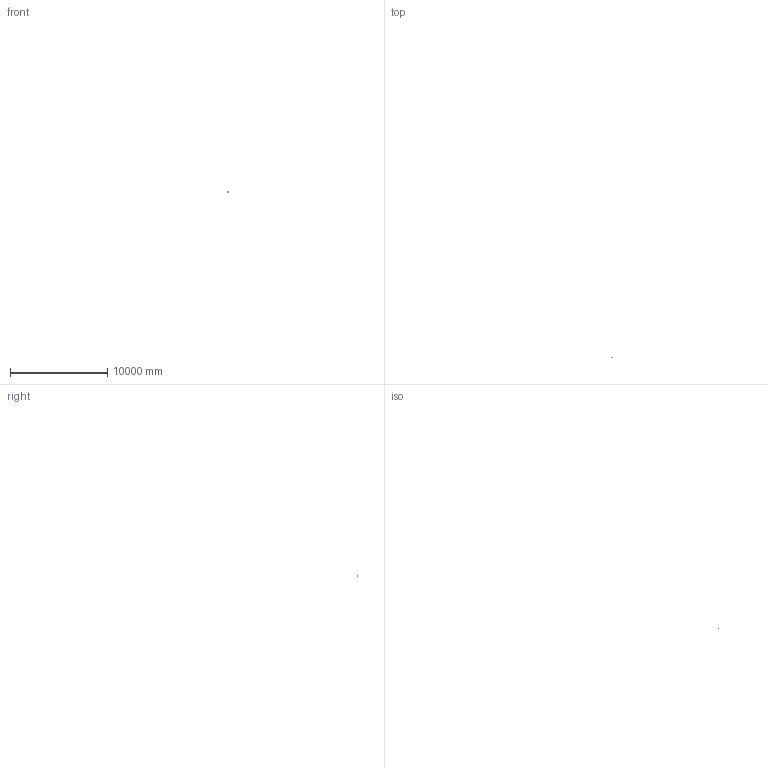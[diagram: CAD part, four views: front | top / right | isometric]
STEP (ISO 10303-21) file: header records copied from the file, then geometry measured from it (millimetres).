
FILE_DESCRIPTION(('Creo Elements/Direct Modeling STEP Export'),'2;1');
FILE_NAME('XTR-480.stp','2025-03-31T13:24:08',(''),(''),'Creo Elements/Direct Modeling STEP processor for AP214 (Solid Model)','Creo Elements/Direct Modeling 19.0G 27-Nov-2017 (C) Parametric Technology GmbH','');
FILE_SCHEMA(('AUTOMOTIVE_DESIGN { 1 0 10303 214 1 1 1 1 }'));
Length unit declared in the file: millimetre
Products named in the file (1062): 1GG4CU-SZ039_PRT-14850_-5471570.PRT; 1GG4CU-SZ039_PRT-15180_-5471900.ASM; 1GG4CU-SZ092-20241216_STP.ASM; 麦拉3; 麦拉2; _X2_96F64EF6_X0_1_1.PRT; _X2_9EA662C9_X0_-5619140.PRT; _X2_96F64EF6_X0_1-5619710.PRT; _X2_96F64EF6_X0_2_1.PRT; _X2_96F64EF6_X0_1_2.PRT; _X2_656370ED7247_X0_2.PRT; _X2_656370ED7247_X0_.PRT; _X2_9EA662C9_X0_3.PRT; _X2_9EA662C9_X0_-5448460.PRT; _X2_9EA662C9_X0__1.PRT; _X2_9EA662C988C5914D_X0_.ASM; _X2_96F64EF6_X0_2.PRT; _X2_96F64EF6_X0_1-5450980.PRT; 麦拉; P3_2_1_PRT.PRT; 15_1_PRT.PRT; P1_1_PRT.PRT; DRP14-R4_ASM.ASM; 1GG2DRP14-R4_STP.ASM; 1FF2.PRT; DG212R-THR-3_5-05P-1Y-1-5317370.PRT; DG212R-THR-3_5-05P-1Y-1-5114690.PRT; _X2_88C5914D_X0_1-5425310.ASM; MPX312-750804-20180713_STEP_1.PRT; FT-63EP_1-704230_PRT-573510.PRT; _X2_4E0A76D6_X0__1-563550.PRT; SDR-120_-____STP-563880.ASM; _X2_4E0B76D6_X0__1_2-109080.PRT; _X2_4E0B76D6_X0__1_1-42000.PRT; _X2_4E0B76D6_X0_-109410.ASM; _X2_88C5914D_X0_1-564160.ASM; NSDR-960_X2_673A58F3_X0_-564480.ASM; 1FF1DH2I-2X7_STP-10080.PRT; VR_PRT-9560.PRT; _X2_75354F4D5668_X0__STP-9800.ASM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
Assembly tree (1708 placements, depth 9):
  XTR-480A.ASM
    配件.1
      DG212R-THR-3.5-05P-1Y-1000A_Z(H).1.1.1
      DG212R-THR-3.5-05P-1Y-1000A_Z(H).1.1
      ___.stp
        FT-63EP_1-704230_PRT-8990.ASM
          FT-63EP_1-704230_PRT-8650.PRT
      DG212R-THR-3.5-05P-1Y-1000A_Z(H).1
    PCBNEW
      XTR-480E-R0.step
        PCB.ASM
          D36.ASM
            2CDX-SMC.PRT
          D33.ASM
            2CDX-SMC.PRT
          C50.ASM
            760907080.PRT
          C47.ASM
            760907080.PRT
          C39.ASM
            760907080.PRT
          C37.ASM
            760907080.PRT
          C5.ASM
            760911792.ASM  x4
              CYLINDER-6648.PRT
            760914832.ASM
              CYLINDER-7037.PRT
            760914984.ASM
              CYLINDER-6845.PRT
            550406192.ASM
              EXTRUDED-3390.PRT
          C6.ASM
            550406352.ASM
              EXTRUDED-7877.PRT
            760915136.ASM  x4
              CYLINDER-7286.PRT
            760915288.ASM
              CYLINDER-7675.PRT
            760915440.ASM
              CYLINDER-7483.PRT
          C7.ASM
            760911792.ASM  x4
              CYLINDER-6648.PRT
            760914832.ASM
              CYLINDER-7037.PRT
            760914984.ASM
              CYLINDER-6845.PRT
            550406192.ASM
              EXTRUDED-3390.PRT
          BOARD.PRT
      XTR-480D-R0.step
        PCB.ASM
          FREE-MODELS.ASM
            864784704.ASM
              EXTRUDED-420222.PRT
          R217.ASM
            760890664.ASM
              760890664_4.PRT
              760890664_3.PRT
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Bounding box: 7564.25 x 34115.39 x 130.49 mm (x, y, z)
Volume: 319138.7 mm3; surface area: 409657.4 mm2
Topology: 1540 solids, 1585 shells, 44519 faces, 115553 edges, 75022 vertices
Faces by surface type: plane 27598, extrusion 9305, cylinder 5611, sphere 1287, torus 390, cone 164, bspline 148, revolution 16
Entity records: 612483 total; most frequent: CARTESIAN_POINT 144808, ORIENTED_EDGE 82334, DIRECTION 74517, EDGE_CURVE 41239, VECTOR 34168, LINE 33089, VERTEX_POINT 27197, AXIS2_PLACEMENT_3D 20171
